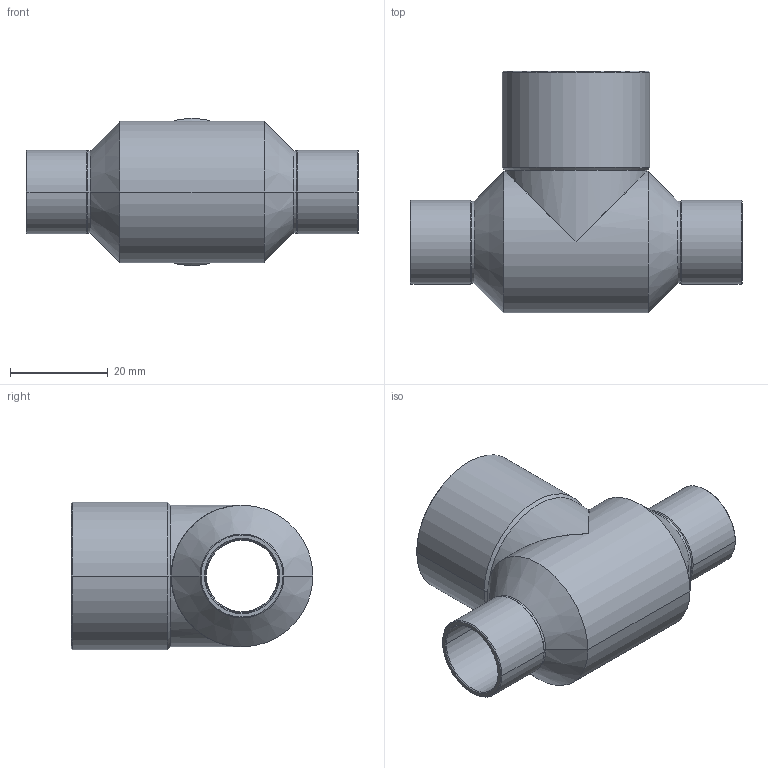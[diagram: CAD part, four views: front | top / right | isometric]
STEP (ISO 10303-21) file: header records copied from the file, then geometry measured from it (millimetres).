
FILE_DESCRIPTION((''),'2;1');
FILE_NAME('P:\Bouwmaten\z-maattekeningen 3D\5000\5130\5130152815.stp','2005-10-26T11:53:00',('Kris'),(''),'Autodesk Inventor 8','Autodesk Inventor 8','');
FILE_SCHEMA(('AUTOMOTIVE_DESIGN { 1 0 10303 214 1 1 1 1 }'));
Length unit declared in the file: millimetre
Products named in the file (1): 5130152815
Bounding box: 68 x 49.5 x 30.2 mm (x, y, z)
Volume: 7311.3 mm3; surface area: 13544.7 mm2
Topology: 1 solids, 1 shells, 71 faces, 160 edges, 82 vertices
Faces by surface type: cylinder 32, cone 32, bspline 4, plane 3
Entity records: 2333 total; most frequent: CARTESIAN_POINT 738, DIRECTION 372, ORIENTED_EDGE 304, AXIS2_PLACEMENT_3D 156, EDGE_CURVE 152, VERTEX_POINT 82, EDGE_LOOP 74, FACE_OUTER_BOUND 71
